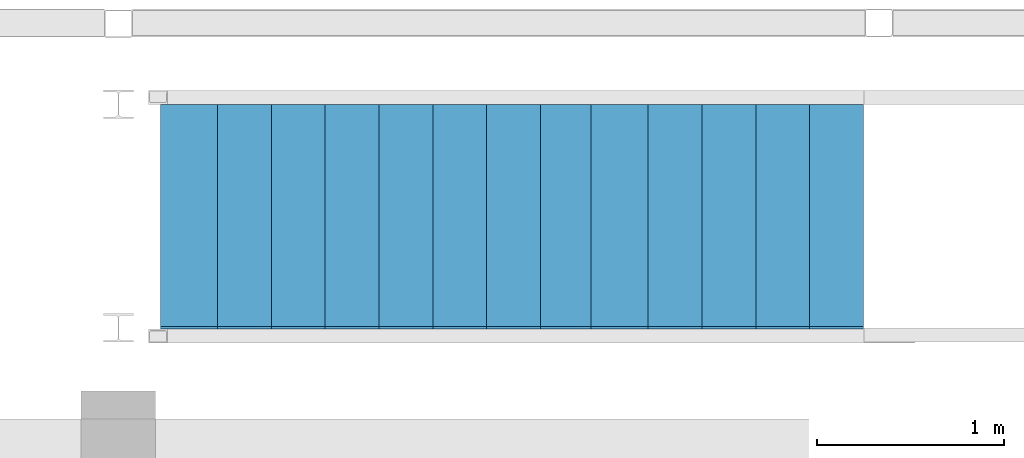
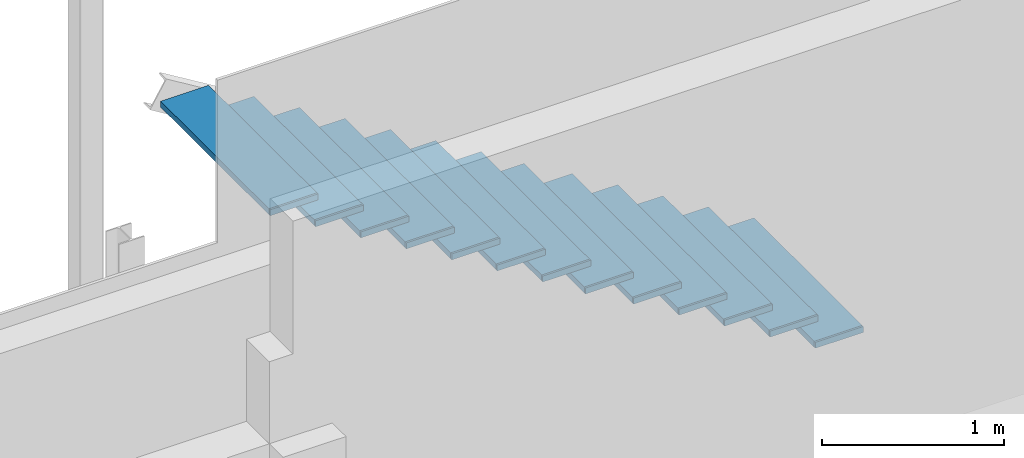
# One storey, part 27 of 29: 2 stairs, 2 elements without a shape of their own.
"""IFC2X3 building model written with IfcOpenShell, lengths in centimetres."""

from ifc_helpers import new_model, entity, si_unit, converted_unit, derived_unit, direction, frame, frame_2d, origin, place, context, subcontext, project, spatial, rectangle, extrude, material, element, aggregate, save


model = new_model("IFC2X3")

# Units and contexts
model_context = context("Model", 3, precision=0.001, world=origin(), true_north=direction((6.12303176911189e-17, 1.0)))
body_context = subcontext(model_context, "Body", "Model", "MODEL_VIEW")
ifc_project = project(units=[si_unit("LENGTHUNIT", "METRE", prefix="CENTI"), si_unit("AREAUNIT", "SQUARE_METRE"), si_unit("VOLUMEUNIT", "CUBIC_METRE"), converted_unit("PLANEANGLEUNIT", "DEGREE", entity("IfcRatioMeasure", 0.0174532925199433), si_unit("PLANEANGLEUNIT", "RADIAN"), dimensions=[0, 0, 0, 0, 0, 0, 0]), si_unit("MASSUNIT", "GRAM", prefix="KILO"), derived_unit("MASSDENSITYUNIT", [(si_unit("MASSUNIT", "GRAM", prefix="KILO"), 1), (si_unit("LENGTHUNIT", "METRE"), -3)]), derived_unit("MOMENTOFINERTIAUNIT", [(si_unit("LENGTHUNIT", "METRE"), 4)]), si_unit("TIMEUNIT", "SECOND"), si_unit("FREQUENCYUNIT", "HERTZ"), si_unit("THERMODYNAMICTEMPERATUREUNIT", "DEGREE_CELSIUS"), derived_unit("THERMALTRANSMITTANCEUNIT", [(si_unit("MASSUNIT", "GRAM", prefix="KILO"), 1), (si_unit("THERMODYNAMICTEMPERATUREUNIT", "KELVIN"), -1), (si_unit("TIMEUNIT", "SECOND"), -3)]), derived_unit("VOLUMETRICFLOWRATEUNIT", [(si_unit("LENGTHUNIT", "METRE"), 3), (si_unit("TIMEUNIT", "SECOND"), -1)]), si_unit("ELECTRICCURRENTUNIT", "AMPERE"), si_unit("ELECTRICVOLTAGEUNIT", "VOLT"), si_unit("POWERUNIT", "WATT"), si_unit("FORCEUNIT", "NEWTON", prefix="KILO"), si_unit("ILLUMINANCEUNIT", "LUX"), si_unit("LUMINOUSFLUXUNIT", "LUMEN"), si_unit("LUMINOUSINTENSITYUNIT", "CANDELA"), derived_unit("USERDEFINED", [(si_unit("MASSUNIT", "GRAM", prefix="KILO"), -1), (si_unit("LENGTHUNIT", "METRE"), -2), (si_unit("TIMEUNIT", "SECOND"), 3), (si_unit("LUMINOUSFLUXUNIT", "LUMEN"), 1)]), derived_unit("LINEARVELOCITYUNIT", [(si_unit("LENGTHUNIT", "METRE"), 1), (si_unit("TIMEUNIT", "SECOND"), -1)]), si_unit("PRESSUREUNIT", "PASCAL"), derived_unit("USERDEFINED", [(si_unit("LENGTHUNIT", "METRE"), -2), (si_unit("MASSUNIT", "GRAM", prefix="KILO"), 1), (si_unit("TIMEUNIT", "SECOND"), -2)]), derived_unit("LINEARFORCEUNIT", [(si_unit("MASSUNIT", "GRAM", prefix="KILO"), 1), (si_unit("LENGTHUNIT", "METRE"), 1), (si_unit("TIMEUNIT", "SECOND"), -2), (si_unit("LENGTHUNIT", "METRE"), -1)]), derived_unit("PLANARFORCEUNIT", [(si_unit("MASSUNIT", "GRAM", prefix="KILO"), 1), (si_unit("LENGTHUNIT", "METRE"), 1), (si_unit("TIMEUNIT", "SECOND"), -2), (si_unit("LENGTHUNIT", "METRE"), -2)])], contexts=[model_context])

# Site, building, storey
site_placement = place(None, origin())
site = spatial("IfcSite", under=ifc_project, at=site_placement, Name="Default", CompositionType="ELEMENT")
building_placement = place(site_placement, origin())
building = spatial("IfcBuilding", under=site, at=building_placement, CompositionType="ELEMENT")
storey_placement = place(building_placement, frame((0.0, 0.0, 545.0)))
storey = spatial("IfcBuildingStorey", under=building, at=storey_placement, Name="Poziom 1K +5,45", CompositionType="ELEMENT", Elevation=544.999999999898)

# Stairs
stair_1_placement = place(storey_placement, origin())
stair_1 = element("IfcStair", 1, at=stair_1_placement, inside=storey, Name="Schody stalowe zewnętrzne:Schody stalowe zewnętrzne", ObjectType="Schody stalowe zewnętrzne:Schody stalowe zewnętrzne", ShapeType="NOTDEFINED")
ifc_material = material(Name="<Unnamed>")
stair_2_placement = place(stair_1_placement, origin())
stair_2 = element("IfcStair", 2, at=stair_2_placement, material=ifc_material, Name="Schody stalowe zewnętrzne:Schody stalowe zewnętrzne", ObjectType="Schody stalowe zewnętrzne:Schody stalowe zewnętrzne", ShapeType="NOTDEFINED", context=body_context, shape_type="SweptSolid", body=[
    extrude(rectangle(XDim=119.0, YDim=30.5000000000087, at=frame_2d((0.0, 5.41788836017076e-14), x_axis=(1.0, 0.0))), frame((-941.273004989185, 2214.1624511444, 483.501591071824), z_axis=(0.0, 0.0, 1.0), x_axis=(0.0, -1.0, 0.0)), (0.0, 0.0, 1.0), 3.99999999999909),
    extrude(rectangle(XDim=119.0, YDim=30.5000000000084, at=frame_2d((0.0, 5.41788836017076e-14), x_axis=(1.0, 0.0))), frame((-595.291366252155, 2214.1624511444, 273.501591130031), z_axis=(0.0, 0.0, 1.0), x_axis=(0.0, -1.0, 0.0)), (0.0, 0.0, 1.0), 3.99999999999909),
    extrude(rectangle(XDim=119.0, YDim=30.5000000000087, at=frame_2d((0.0, 5.41788836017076e-14), x_axis=(1.0, 0.0))), frame((-912.441201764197, 2214.1624511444, 466.001591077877), z_axis=(0.0, 0.0, 1.0), x_axis=(0.0, -1.0, 0.0)), (0.0, 0.0, 1.0), 3.99999999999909),
    extrude(rectangle(XDim=119.0, YDim=30.5, at=frame_2d((0.0, 5.41788836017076e-14), x_axis=(1.0, 0.0))), frame((-883.609398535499, 2214.1624511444, 448.501591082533), z_axis=(0.0, 0.0, 1.0), x_axis=(0.0, -1.0, 0.0)), (0.0, 0.0, 1.0), 3.99999999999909),
    extrude(rectangle(XDim=119.0, YDim=30.5000000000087, at=frame_2d((0.0, 5.41788836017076e-14), x_axis=(1.0, 0.0))), frame((-854.777595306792, 2214.1624511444, 431.001591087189), z_axis=(0.0, 0.0, 1.0), x_axis=(0.0, -1.0, 0.0)), (0.0, 0.0, 1.0), 3.99999999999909),
    extrude(rectangle(XDim=119.0, YDim=30.5000000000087, at=frame_2d((0.0, 5.41788836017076e-14), x_axis=(1.0, 0.0))), frame((-825.945792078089, 2214.1624511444, 413.501591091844), z_axis=(0.0, 0.0, 1.0), x_axis=(0.0, -1.0, 0.0)), (0.0, 0.0, 1.0), 3.99999999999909),
    extrude(rectangle(XDim=119.0, YDim=30.5000000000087, at=frame_2d((0.0, 5.41788836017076e-14), x_axis=(1.0, 0.0))), frame((-797.113988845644, 2214.1624511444, 396.001591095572), z_axis=(0.0, 0.0, 1.0), x_axis=(0.0, -1.0, 0.0)), (0.0, 0.0, 1.0), 3.99999999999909),
    extrude(rectangle(XDim=119.0, YDim=30.5000000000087, at=frame_2d((2.16715534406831e-13, 5.41788836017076e-14), x_axis=(1.0, 0.0))), frame((-768.282185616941, 2214.1624511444, 378.501591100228), z_axis=(0.0, 0.0, 1.0), x_axis=(0.0, -1.0, 0.0)), (0.0, 0.0, 1.0), 3.99999999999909),
    extrude(rectangle(XDim=119.0, YDim=30.5000000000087, at=frame_2d((0.0, 5.41788836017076e-14), x_axis=(1.0, 0.0))), frame((-710.618579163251, 2214.1624511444, 343.501591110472), z_axis=(0.0, 0.0, 1.0), x_axis=(0.0, -1.0, 0.0)), (0.0, 0.0, 1.0), 3.99999999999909),
    extrude(rectangle(XDim=119.0, YDim=30.5000000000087, at=frame_2d((0.0, 5.41788836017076e-14), x_axis=(1.0, 0.0))), frame((-681.786775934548, 2214.1624511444, 326.001591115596), z_axis=(0.0, 0.0, 1.0), x_axis=(0.0, -1.0, 0.0)), (0.0, 0.0, 1.0), 3.99999999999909),
    extrude(rectangle(XDim=119.0, YDim=30.5000000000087, at=frame_2d((0.0, 5.41788836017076e-14), x_axis=(1.0, 0.0))), frame((-652.954972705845, 2214.1624511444, 308.501591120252), z_axis=(0.0, 0.0, 1.0), x_axis=(0.0, -1.0, 0.0)), (0.0, 0.0, 1.0), 3.99999999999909),
    extrude(rectangle(XDim=119.0, YDim=30.5000000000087, at=frame_2d((0.0, 5.41788836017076e-14), x_axis=(1.0, 0.0))), frame((-624.1231694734, 2214.1624511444, 291.001591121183), z_axis=(0.0, 0.0, 1.0), x_axis=(0.0, -1.0, 0.0)), (0.0, 0.0, 1.0), 3.99999999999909),
    extrude(rectangle(XDim=119.0, YDim=30.5000000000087, at=frame_2d((0.0, 5.41788836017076e-14), x_axis=(1.0, 0.0))), frame((-741.118579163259, 2214.1624511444, 361.001591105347), z_axis=(0.0, 0.0, 1.0), x_axis=(0.0, -1.0, 0.0)), (0.0, 0.0, 1.0), 3.99999999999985),
])
aggregate(stair_1, [stair_2])

stair_3_placement = place(storey_placement, origin())
stair_3 = element("IfcStair", 3, at=stair_3_placement, inside=storey, Name="Schody stalowe zewnętrzne1:Schody stalowe zewnętrzne", ObjectType="Schody stalowe zewnętrzne1:Schody stalowe zewnętrzne", ShapeType="NOTDEFINED")
stair_4_placement = place(stair_3_placement, origin())
stair_4 = element("IfcStair", 4, at=stair_4_placement, material=ifc_material, Name="Schody stalowe zewnętrzne1:Schody stalowe zewnętrzne", ObjectType="Schody stalowe zewnętrzne1:Schody stalowe zewnętrzne", ShapeType="NOTDEFINED", context=body_context, shape_type="SweptSolid", body=[
    extrude(rectangle(XDim=119.0, YDim=30.5000000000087, at=frame_2d((0.0, -5.41788836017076e-14), x_axis=(1.0, 0.0))), frame((-941.273004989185, 2212.91857996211, 483.501591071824), z_axis=(0.0, 0.0, 1.0), x_axis=(0.0, 1.0, 0.0)), (0.0, 0.0, 1.0), 3.99999999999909),
    extrude(rectangle(XDim=119.0, YDim=30.5000000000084, at=frame_2d((0.0, -5.41788836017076e-14), x_axis=(1.0, 0.0))), frame((-595.291366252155, 2212.91857996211, 273.501591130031), z_axis=(0.0, 0.0, 1.0), x_axis=(0.0, 1.0, 0.0)), (0.0, 0.0, 1.0), 3.99999999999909),
    extrude(rectangle(XDim=119.0, YDim=30.5000000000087, at=frame_2d((0.0, -5.41788836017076e-14), x_axis=(1.0, 0.0))), frame((-912.441201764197, 2212.91857996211, 466.001591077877), z_axis=(0.0, 0.0, 1.0), x_axis=(0.0, 1.0, 0.0)), (0.0, 0.0, 1.0), 3.99999999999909),
    extrude(rectangle(XDim=119.0, YDim=30.5, at=frame_2d((-2.16715534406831e-13, -5.41788836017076e-14), x_axis=(1.0, 0.0))), frame((-883.609398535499, 2212.91857996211, 448.501591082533), z_axis=(0.0, 0.0, 1.0), x_axis=(0.0, 1.0, 0.0)), (0.0, 0.0, 1.0), 3.99999999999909),
    extrude(rectangle(XDim=119.0, YDim=30.5000000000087, at=frame_2d((0.0, -5.41788836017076e-14), x_axis=(1.0, 0.0))), frame((-854.777595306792, 2212.91857996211, 431.001591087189), z_axis=(0.0, 0.0, 1.0), x_axis=(0.0, 1.0, 0.0)), (0.0, 0.0, 1.0), 3.99999999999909),
    extrude(rectangle(XDim=119.0, YDim=30.5000000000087, at=frame_2d((2.16715534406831e-13, -5.41788836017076e-14), x_axis=(1.0, 0.0))), frame((-825.945792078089, 2212.91857996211, 413.501591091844), z_axis=(0.0, 0.0, 1.0), x_axis=(0.0, 1.0, 0.0)), (0.0, 0.0, 1.0), 3.99999999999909),
    extrude(rectangle(XDim=119.0, YDim=30.5000000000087, at=frame_2d((0.0, -5.41788836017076e-14), x_axis=(1.0, 0.0))), frame((-797.113988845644, 2212.91857996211, 396.001591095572), z_axis=(0.0, 0.0, 1.0), x_axis=(0.0, 1.0, 0.0)), (0.0, 0.0, 1.0), 3.99999999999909),
    extrude(rectangle(XDim=119.0, YDim=30.5000000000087, at=frame_2d((2.16715534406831e-13, -5.41788836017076e-14), x_axis=(1.0, 0.0))), frame((-768.282185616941, 2212.91857996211, 378.501591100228), z_axis=(0.0, 0.0, 1.0), x_axis=(0.0, 1.0, 0.0)), (0.0, 0.0, 1.0), 3.99999999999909),
    extrude(rectangle(XDim=119.0, YDim=30.5000000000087, at=frame_2d((0.0, -5.41788836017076e-14), x_axis=(1.0, 0.0))), frame((-710.618579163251, 2212.91857996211, 343.501591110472), z_axis=(0.0, 0.0, 1.0), x_axis=(0.0, 1.0, 0.0)), (0.0, 0.0, 1.0), 3.99999999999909),
    extrude(rectangle(XDim=119.0, YDim=30.5000000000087, at=frame_2d((2.16715534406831e-13, -5.41788836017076e-14), x_axis=(1.0, 0.0))), frame((-681.786775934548, 2212.91857996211, 326.001591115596), z_axis=(0.0, 0.0, 1.0), x_axis=(0.0, 1.0, 0.0)), (0.0, 0.0, 1.0), 3.99999999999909),
    extrude(rectangle(XDim=119.0, YDim=30.5000000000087, at=frame_2d((0.0, -5.41788836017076e-14), x_axis=(1.0, 0.0))), frame((-652.954972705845, 2212.91857996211, 308.501591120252), z_axis=(0.0, 0.0, 1.0), x_axis=(0.0, 1.0, 0.0)), (0.0, 0.0, 1.0), 3.99999999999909),
    extrude(rectangle(XDim=119.0, YDim=30.5000000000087, at=frame_2d((-2.16715534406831e-13, -5.41788836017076e-14), x_axis=(1.0, 0.0))), frame((-624.1231694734, 2212.91857996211, 291.001591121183), z_axis=(0.0, 0.0, 1.0), x_axis=(0.0, 1.0, 0.0)), (0.0, 0.0, 1.0), 3.99999999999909),
    extrude(rectangle(XDim=119.0, YDim=30.5000000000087, at=frame_2d((2.16715534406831e-13, -5.41788836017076e-14), x_axis=(1.0, 0.0))), frame((-741.118579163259, 2212.91857996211, 361.001591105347), z_axis=(0.0, 0.0, 1.0), x_axis=(0.0, 1.0, 0.0)), (0.0, 0.0, 1.0), 3.99999999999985),
])
aggregate(stair_3, [stair_4])

save(model, "model.ifc")
